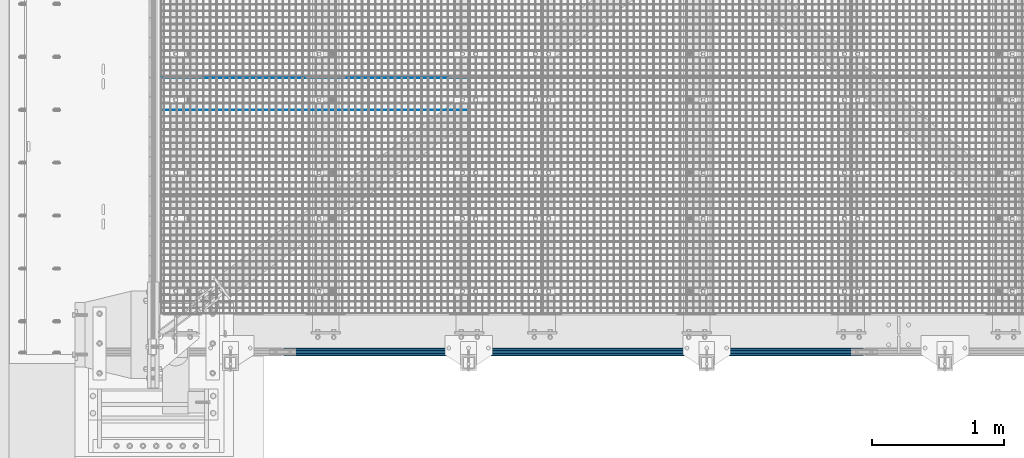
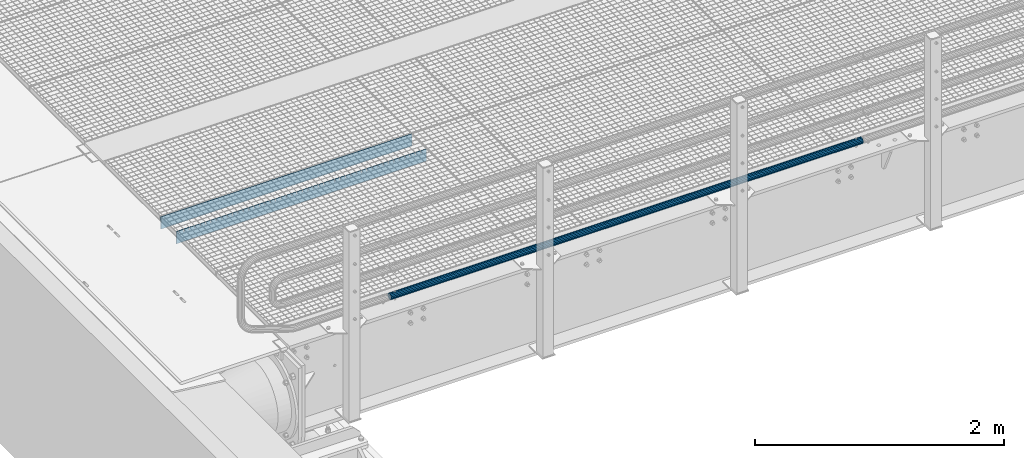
# One storey, part 159 of 1530: 3 beams.
"""IFC2X3 building model written with IfcOpenShell, lengths in millimetres."""

from ifc_helpers import new_model, si_unit, frame, origin_with_axes, place, context, subcontext, project, spatial, faceted_brep, material, type_object, element, save


model = new_model("IFC2X3")

# Units and contexts
model_context = context("Model", 3, precision=1e-05, world=origin_with_axes())
body_context = subcontext(model_context, "Body", "Model", "MODEL_VIEW")
ifc_project = project(units=[si_unit("LENGTHUNIT", "METRE", prefix="MILLI"), si_unit("AREAUNIT", "SQUARE_METRE"), si_unit("VOLUMEUNIT", "CUBIC_METRE"), si_unit("MASSUNIT", "GRAM", prefix="KILO"), si_unit("TIMEUNIT", "SECOND"), si_unit("PLANEANGLEUNIT", "RADIAN"), si_unit("SOLIDANGLEUNIT", "STERADIAN"), si_unit("THERMODYNAMICTEMPERATUREUNIT", "DEGREE_CELSIUS"), si_unit("LUMINOUSINTENSITYUNIT", "LUMEN")], contexts=[model_context])

# Site, building, storey
site_placement = place(None, origin_with_axes())
site = spatial("IfcSite", under=ifc_project, at=site_placement, Name="Brattvåg", CompositionType="ELEMENT")
building_placement = place(site_placement, origin_with_axes())
building = spatial("IfcBuilding", under=site, at=building_placement, Name="Undefined", CompositionType="ELEMENT")
storey_placement = place(building_placement, origin_with_axes())
storey = spatial("IfcBuildingStorey", under=building, at=storey_placement, Name="Undefined", CompositionType="ELEMENT", Elevation=0.0)

# Beams
ifc_material_1 = material(Name="STEEL/S355J2")
beam_type_1 = type_object("IfcBeamType", Name="120*5", PredefinedType="NOTDEFINED")
beam_1_placement = place(storey_placement, frame((2347.01317977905, 1699.9952545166, -59.9998626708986), z_axis=(0.0, 0.0, 1.0), x_axis=(-1.0, 1.99999855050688e-09, 0.0)))
element("IfcBeam", 1, at=beam_1_placement, inside=storey, type_object=beam_type_1, material=ifc_material_1, Name="GRATING", context=body_context, shape_type="Brep", body=[
    faceted_brep([(99.4490367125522, -2.50000000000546, 60.0000722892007), (99.4490367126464, -2.50000000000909, 35.0001373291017), (99.4490367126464, 2.50022888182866, 35.0001373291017), (99.4490367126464, 2.5, 60.0), (104.449036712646, -2.50000000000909, 35.0001373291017), (104.449036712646, 2.50022888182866, 35.0001373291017), (104.449036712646, -2.50000000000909, 60.0001373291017), (104.449036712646, 2.5, 60.0), (54.5084370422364, -2.50000000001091, 60.0001373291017), (54.5084370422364, 2.5, 60.0), (54.5084370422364, 2.49999999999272, 35.0001373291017), (54.5084370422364, -2.50000000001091, 35.0001373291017), (49.5084370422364, 2.49999999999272, 35.0001373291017), (49.5084370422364, -2.50000000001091, 35.0001373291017), (49.5084370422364, -2.5, 60.0), (49.5084370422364, 2.5, 60.0), (0.0, 2.5, 60.0), (0.0, -2.5, 60.0), (0.0, -2.5, -60.0), (0.0, 2.5, -60.0), (2319.99865722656, 2.5, -60.0), (2319.99865722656, -2.5, -60.0), (2319.99865722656, -2.5, 60.0), (2319.99865722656, 2.5, 60.0), (2302.24871932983, 2.5, 60.0), (2302.24871932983, -2.50000000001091, 60.0001373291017), (2302.24871932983, 2.49999999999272, 35.0001373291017), (2302.24871932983, -2.50000000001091, 35.0001373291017), (2297.24871932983, 2.49999999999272, 35.0001373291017), (2297.24871932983, -2.50000000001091, 35.0001373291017), (2297.24871932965, -2.50000000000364, 60.0000461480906), (2297.24871932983, 2.5, 60.0), (2252.29859649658, 2.5, 60.0), (2252.29859649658, -2.50000000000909, 60.0001373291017), (2252.29859649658, 2.50022888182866, 35.0001373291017), (2252.29859649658, -2.50000000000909, 35.0001373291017), (2247.29859649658, 2.50022888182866, 35.0001373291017), (2247.29859649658, -2.50000000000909, 35.0001373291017), (2247.29859649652, -2.50000000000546, 60.0000848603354), (2247.29859649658, 2.5, 60.0), (2202.34847366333, 2.5, 60.0), (2202.34847366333, -2.50000000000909, 60.0001373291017), (2202.34847366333, 2.50022888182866, 35.0001373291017), (2202.34847366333, -2.50000000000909, 35.0001373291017), (2197.34847366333, 2.50022888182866, 35.0001373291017), (2197.34847366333, -2.50000000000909, 35.0001373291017), (2197.34847366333, -2.5, 60.0), (2197.34847366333, 2.5, 60.0), (2152.39882766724, 2.5, 60.0), (2152.39882766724, -2.50000000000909, 60.0001373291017), (2152.39882766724, 2.50022888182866, 35.0001373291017), (2152.39882766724, -2.50000000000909, 35.0001373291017), (2147.39882766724, 2.50022888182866, 35.0001373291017), (2147.39882766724, -2.50000000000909, 35.0001373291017), (2147.39882766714, -2.50000000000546, 60.0000722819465), (2147.39882766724, 2.5, 60.0), (2102.44870483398, 2.5, 60.0), (2102.44870483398, -2.50000000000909, 60.0001373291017), (2102.44870483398, 2.50022888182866, 35.0001373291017), (2102.44870483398, -2.50000000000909, 35.0001373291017), (2097.44870483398, 2.50022888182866, 35.0001373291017), (2097.44870483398, -2.50000000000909, 35.0001373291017), (2097.44870483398, -2.5, 60.0), (2097.44870483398, 2.5, 60.0), (2052.49858200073, 2.5, 60.0), (2052.49858200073, -2.50000000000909, 60.0001373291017), (2052.49858200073, 2.50022888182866, 35.0001373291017), (2052.49858200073, -2.50000000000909, 35.0001373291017), (2047.49858200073, 2.50022888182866, 35.0001373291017), (2047.49858200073, -2.50000000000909, 35.0001373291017), (2047.49858200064, -2.50000000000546, 60.0000722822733), (2047.49858200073, 2.5, 60.0), (2002.54845916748, 2.5, 60.0), (2002.54845916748, -2.50000000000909, 60.0001373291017), (2002.54845916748, 2.50022888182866, 35.0001373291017), (2002.54845916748, -2.50000000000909, 35.0001373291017), (1997.54845916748, 2.50022888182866, 35.0001373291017), (1997.54845916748, -2.50000000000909, 35.0001373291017), (1997.54845916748, -2.5, 60.0), (1997.54845916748, 2.5, 60.0), (1952.59881317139, 2.5, 60.0), (1952.59881317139, -2.50000000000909, 60.0001373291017), (1952.59881317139, 2.50022888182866, 35.0001373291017), (1952.59881317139, -2.50000000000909, 35.0001373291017), (1947.59881317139, 2.50022888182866, 35.0001373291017), (1947.59881317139, -2.50000000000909, 35.0001373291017), (1947.59881317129, -2.50000000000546, 60.0000722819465), (1947.59881317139, 2.5, 60.0), (1902.64869033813, 2.5, 60.0), (1902.64869033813, -2.50000000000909, 60.0001373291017), (1902.64869033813, 2.50022888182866, 35.0001373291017), (1902.64869033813, -2.50000000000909, 35.0001373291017), (1897.64869033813, 2.50022888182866, 35.0001373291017), (1897.64869033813, -2.50000000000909, 35.0001373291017), (1897.64869033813, -2.5, 60.0), (1897.64869033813, 2.5, 60.0), (1852.69856750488, 2.5, 60.0), (1852.69856750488, -2.50000000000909, 60.0001373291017), (1852.69856750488, 2.50022888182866, 35.0001373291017), (1852.69856750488, -2.50000000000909, 35.0001373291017), (1847.69856750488, 2.50022888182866, 35.0001373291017), (1847.69856750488, -2.50000000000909, 35.0001373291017), (1847.69856750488, -2.5, 60.0), (1847.69856750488, 2.5, 60.0), (1802.74892150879, 2.5, 60.0), (1802.74892150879, -2.50000000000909, 60.0001373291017), (1802.74892150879, 2.50022888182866, 35.0001373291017), (1802.74892150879, -2.50000000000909, 35.0001373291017), (1797.74892150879, 2.50022888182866, 35.0001373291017), (1797.74892150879, -2.50000000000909, 35.0001373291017), (1797.74892150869, -2.50000000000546, 60.0000722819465), (1797.74892150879, 2.5, 60.0), (1752.79879867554, 2.5, 60.0), (1752.79879867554, -2.50000000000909, 60.0001373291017), (1752.79879867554, 2.50022888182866, 35.0001373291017), (1752.79879867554, -2.50000000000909, 35.0001373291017), (1747.79879867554, 2.50022888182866, 35.0001373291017), (1747.79879867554, -2.50000000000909, 35.0001373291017), (1747.79879867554, -2.5, 60.0), (1747.79879867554, 2.5, 60.0), (1702.84867584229, 2.5, 60.0), (1702.84867584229, -2.50000000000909, 60.0001373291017), (1702.84867584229, 2.50022888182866, 35.0001373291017), (1702.84867584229, -2.50000000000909, 35.0001373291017), (1697.84867584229, 2.50022888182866, 35.0001373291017), (1697.84867584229, -2.50000000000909, 35.0001373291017), (1697.84867584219, -2.50000000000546, 60.0000722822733), (1697.84867584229, 2.5, 60.0), (1652.89855300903, 2.5, 60.0), (1652.89855300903, -2.50000000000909, 60.0001373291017), (1652.89855300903, 2.50022888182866, 35.0001373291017), (1652.89855300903, -2.50000000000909, 35.0001373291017), (1647.89855300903, 2.50022888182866, 35.0001373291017), (1647.89855300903, -2.50000000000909, 35.0001373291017), (1647.89855300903, -2.5, 60.0), (1647.89855300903, 2.5, 60.0), (1602.94890701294, 2.5, 60.0), (1602.94890701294, -2.50000000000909, 60.0001373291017), (1602.94890701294, 2.50022888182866, 35.0001373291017), (1602.94890701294, -2.50000000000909, 35.0001373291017), (1597.94890701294, 2.50022888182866, 35.0001373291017), (1597.94890701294, -2.50000000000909, 35.0001373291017), (1597.94890701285, -2.50000000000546, 60.0000722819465), (1597.94890701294, 2.5, 60.0), (1552.99878417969, 2.5, 60.0), (1552.99878417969, -2.50000000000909, 60.0001373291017), (1552.99878417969, 2.50022888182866, 35.0001373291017), (1552.99878417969, -2.50000000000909, 35.0001373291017), (1547.99878417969, 2.50022888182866, 35.0001373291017), (1547.99878417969, -2.50000000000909, 35.0001373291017), (1547.99878417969, -2.5, 60.0), (1547.99878417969, 2.5, 60.0), (1503.04866134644, 2.5, 60.0), (1503.04866134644, -2.50000000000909, 60.0001373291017), (1503.04866134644, 2.50022888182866, 35.0001373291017), (1503.04866134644, -2.50000000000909, 35.0001373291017), (1498.04866134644, 2.50022888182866, 35.0001373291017), (1498.04866134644, -2.50000000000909, 35.0001373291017), (1498.04866134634, -2.50000000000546, 60.0000722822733), (1498.04866134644, 2.5, 60.0), (1453.09853851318, 2.5, 60.0), (1453.09853851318, -2.50000000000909, 60.0001373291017), (1453.09853851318, 2.50022888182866, 35.0001373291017), (1453.09853851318, -2.50000000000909, 35.0001373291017), (1448.09853851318, 2.50022888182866, 35.0001373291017), (1448.09853851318, -2.50000000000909, 35.0001373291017), (1448.09853851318, -2.5, 60.0), (1448.09853851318, 2.5, 60.0), (1403.14889251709, 2.5, 60.0), (1403.14889251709, -2.50000000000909, 60.0001373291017), (1403.14889251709, 2.50022888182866, 35.0001373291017), (1403.14889251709, -2.50000000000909, 35.0001373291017), (1398.14889251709, 2.50022888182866, 35.0001373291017), (1398.14889251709, -2.50000000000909, 35.0001373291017), (1398.148892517, -2.50000000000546, 60.0000722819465), (1398.14889251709, 2.5, 60.0), (1353.19876968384, 2.5, 60.0), (1353.19876968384, -2.50000000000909, 60.0001373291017), (1353.19876968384, 2.50022888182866, 35.0001373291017), (1353.19876968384, -2.50000000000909, 35.0001373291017), (1348.19876968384, 2.50022888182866, 35.0001373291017), (1348.19876968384, -2.50000000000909, 35.0001373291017), (1348.19876968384, -2.5, 60.0), (1348.19876968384, 2.5, 60.0), (1303.24864685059, 2.5, 60.0), (1303.24864685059, -2.50000000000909, 60.0001373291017), (1303.24864685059, 2.50022888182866, 35.0001373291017), (1303.24864685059, -2.50000000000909, 35.0001373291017), (1298.24864685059, 2.50022888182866, 35.0001373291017), (1298.24864685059, -2.50000000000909, 35.0001373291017), (1298.24864685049, -2.50000000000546, 60.0000722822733), (1298.24864685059, 2.5, 60.0), (1253.29852401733, 2.5, 60.0), (1253.29852401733, -2.50000000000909, 60.0001373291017), (1253.29852401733, 2.50022888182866, 35.0001373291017), (1253.29852401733, -2.50000000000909, 35.0001373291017), (1248.29852401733, 2.50022888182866, 35.0001373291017), (1248.29852401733, -2.50000000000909, 35.0001373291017), (1248.29852401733, -2.5, 60.0), (1248.29852401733, 2.5, 60.0), (1203.34887802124, 2.5, 60.0), (1203.34887802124, -2.50000000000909, 60.0001373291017), (1203.34887802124, 2.50022888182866, 35.0001373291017), (1203.34887802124, -2.50000000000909, 35.0001373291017), (1198.34887802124, 2.50022888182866, 35.0001373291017), (1198.34887802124, -2.50000000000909, 35.0001373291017), (1198.34887802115, -2.50000000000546, 60.0000722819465), (1198.34887802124, 2.5, 60.0), (1153.39875518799, 2.5, 60.0), (1153.39875518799, -2.50000000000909, 60.0001373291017), (1153.39875518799, 2.50022888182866, 35.0001373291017), (1153.39875518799, -2.50000000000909, 35.0001373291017), (1148.39875518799, 2.50022888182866, 35.0001373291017), (1148.39875518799, -2.50000000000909, 35.0001373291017), (1148.39875518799, -2.5, 60.0), (1148.39875518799, 2.5, 60.0), (1103.44863235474, 2.5, 60.0), (1103.44863235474, -2.50000000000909, 60.0001373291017), (1103.44863235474, 2.50022888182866, 35.0001373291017), (1103.44863235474, -2.50000000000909, 35.0001373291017), (1098.44863235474, 2.50022888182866, 35.0001373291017), (1098.44863235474, -2.50000000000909, 35.0001373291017), (1098.44863235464, -2.50000000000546, 60.0000722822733), (1098.44863235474, 2.5, 60.0), (1053.49850952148, 2.5, 60.0), (1053.49850952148, -2.50000000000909, 60.0001373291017), (1053.49850952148, 2.50022888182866, 35.0001373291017), (1053.49850952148, -2.50000000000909, 35.0001373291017), (1048.49850952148, 2.50022888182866, 35.0001373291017), (1048.49850952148, -2.50000000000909, 35.0001373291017), (1048.49850952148, -2.5, 60.0), (1048.49850952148, 2.5, 60.0), (1003.54886352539, 2.5, 60.0), (1003.54886352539, -2.50000000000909, 60.0001373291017), (1003.54886352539, 2.50022888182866, 35.0001373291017), (1003.54886352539, -2.50000000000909, 35.0001373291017), (998.548863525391, 2.50022888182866, 35.0001373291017), (998.548863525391, -2.50000000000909, 35.0001373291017), (998.548863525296, -2.50000000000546, 60.0000722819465), (998.548863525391, 2.5, 60.0), (953.598740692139, 2.5, 60.0), (953.598740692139, -2.50000000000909, 60.0001373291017), (953.598740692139, 2.50022888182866, 35.0001373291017), (953.598740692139, -2.50000000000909, 35.0001373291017), (948.598740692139, 2.50022888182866, 35.0001373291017), (948.598740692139, -2.50000000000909, 35.0001373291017), (948.598740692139, -2.5, 60.0), (948.598740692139, 2.5, 60.0), (903.648617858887, 2.5, 60.0), (903.648617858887, -2.50000000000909, 60.0001373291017), (903.648617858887, 2.50022888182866, 35.0001373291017), (903.648617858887, -2.50000000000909, 35.0001373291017), (898.648617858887, 2.50022888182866, 35.0001373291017), (898.648617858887, -2.50000000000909, 35.0001373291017), (898.648617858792, -2.50000000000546, 60.0000722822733), (898.648617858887, 2.5, 60.0), (853.698495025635, 2.5, 60.0), (853.698495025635, -2.50000000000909, 60.0001373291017), (853.698495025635, 2.50022888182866, 35.0001373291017), (853.698495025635, -2.50000000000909, 35.0001373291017), (848.698495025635, 2.50022888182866, 35.0001373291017), (848.698495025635, -2.50000000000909, 35.0001373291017), (848.698495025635, -2.5, 60.0), (848.698495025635, 2.5, 60.0), (803.748849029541, 2.5, 60.0), (803.748849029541, -2.50000000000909, 60.0001373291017), (803.748849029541, 2.50022888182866, 35.0001373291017), (803.748849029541, -2.50000000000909, 35.0001373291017), (798.748849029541, 2.50022888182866, 35.0001373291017), (798.748849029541, -2.50000000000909, 35.0001373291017), (798.748849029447, -2.50000000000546, 60.0000722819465), (798.748849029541, 2.5, 60.0), (753.798726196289, 2.5, 60.0), (753.798726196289, -2.50000000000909, 60.0001373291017), (753.798726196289, 2.50022888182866, 35.0001373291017), (753.798726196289, -2.50000000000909, 35.0001373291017), (748.798726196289, 2.50022888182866, 35.0001373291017), (748.798726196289, -2.50000000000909, 35.0001373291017), (748.798726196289, -2.5, 60.0), (748.798726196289, 2.5, 60.0), (703.848603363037, 2.5, 60.0), (703.848603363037, -2.50000000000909, 60.0001373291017), (703.848603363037, 2.50022888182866, 35.0001373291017), (703.848603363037, -2.50000000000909, 35.0001373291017), (698.848603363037, 2.50022888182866, 35.0001373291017), (698.848603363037, -2.50000000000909, 35.0001373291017), (698.848603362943, -2.50000000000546, 60.0000722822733), (698.848603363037, 2.5, 60.0), (653.898480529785, 2.5, 60.0), (653.898480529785, -2.50000000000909, 60.0001373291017), (653.898480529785, 2.50022888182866, 35.0001373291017), (653.898480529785, -2.50000000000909, 35.0001373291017), (648.898480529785, 2.50022888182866, 35.0001373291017), (648.898480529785, -2.50000000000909, 35.0001373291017), (648.898480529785, -2.5, 60.0), (648.898480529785, 2.5, 60.0), (603.948834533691, 2.5, 60.0), (603.948834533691, -2.50000000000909, 60.0001373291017), (603.948834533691, 2.50022888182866, 35.0001373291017), (603.948834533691, -2.50000000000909, 35.0001373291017), (598.948834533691, 2.50022888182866, 35.0001373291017), (598.948834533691, -2.50000000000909, 35.0001373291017), (598.948834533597, -2.50000000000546, 60.0000722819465), (598.948834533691, 2.5, 60.0), (553.998711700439, 2.5, 60.0), (553.998711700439, -2.50000000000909, 60.0001373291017), (553.998711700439, 2.50022888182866, 35.0001373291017), (553.998711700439, -2.50000000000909, 35.0001373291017), (548.998711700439, 2.50022888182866, 35.0001373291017), (548.998711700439, -2.50000000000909, 35.0001373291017), (548.998711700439, -2.5, 60.0), (548.998711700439, 2.5, 60.0), (504.048588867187, 2.5, 60.0), (504.048588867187, -2.50000000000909, 60.0001373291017), (504.048588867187, 2.50022888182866, 35.0001373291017), (504.048588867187, -2.50000000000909, 35.0001373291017), (499.048588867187, 2.50022888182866, 35.0001373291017), (499.048588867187, -2.50000000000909, 35.0001373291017), (499.048588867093, -2.50000000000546, 60.0000722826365), (499.048588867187, 2.5, 60.0), (454.098942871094, 2.5, 60.0), (454.098942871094, -2.50000000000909, 60.0001373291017), (454.098942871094, 2.50022888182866, 35.0001373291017), (454.098942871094, -2.50000000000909, 35.0001373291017), (449.098942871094, 2.50022888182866, 35.0001373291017), (449.098942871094, -2.50000000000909, 35.0001373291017), (449.098942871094, -2.5, 60.0), (449.098942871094, 2.5, 60.0), (404.148820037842, 2.5, 60.0), (404.148820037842, -2.50000000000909, 60.0001373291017), (404.148820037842, 2.50022888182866, 35.0001373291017), (404.148820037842, -2.50000000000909, 35.0001373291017), (399.148820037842, 2.50022888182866, 35.0001373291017), (399.148820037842, -2.50000000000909, 35.0001373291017), (399.148820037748, -2.50000000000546, 60.0000722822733), (399.148820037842, 2.5, 60.0), (354.19869720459, 2.5, 60.0), (354.19869720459, -2.50000000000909, 60.0001373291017), (354.19869720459, 2.50022888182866, 35.0001373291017), (354.19869720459, -2.50000000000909, 35.0001373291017), (349.19869720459, 2.50022888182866, 35.0001373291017), (349.19869720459, -2.50000000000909, 35.0001373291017), (349.19869720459, -2.5, 60.0), (349.19869720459, 2.5, 60.0), (304.248574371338, 2.5, 60.0), (304.248574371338, -2.50000000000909, 60.0001373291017), (304.248574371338, 2.50022888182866, 35.0001373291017), (304.248574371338, -2.50000000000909, 35.0001373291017), (299.248574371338, 2.50022888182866, 35.0001373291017), (299.248574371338, -2.50000000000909, 35.0001373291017), (299.248574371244, -2.50000000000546, 60.0000722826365), (299.248574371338, 2.5, 60.0), (254.298928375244, 2.5, 60.0), (254.298928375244, -2.50000000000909, 60.0001373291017), (254.298928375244, 2.50022888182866, 35.0001373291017), (254.298928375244, -2.50000000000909, 35.0001373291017), (249.298928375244, 2.50022888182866, 35.0001373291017), (249.298928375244, -2.50000000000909, 35.0001373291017), (249.298928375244, -2.5, 60.0), (249.298928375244, 2.5, 60.0), (204.348328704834, 2.5, 60.0), (204.348328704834, -2.50000000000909, 60.0001373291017), (204.348328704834, 2.50022888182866, 35.0001373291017), (204.348328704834, -2.50000000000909, 35.0001373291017), (199.348328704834, 2.50022888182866, 35.0001373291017), (199.348328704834, -2.50000000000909, 35.0001373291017), (199.34832870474, -2.50000000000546, 60.0000722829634), (199.348328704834, 2.5, 60.0), (154.39868270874, 2.5, 60.0), (154.39868270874, -2.50000000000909, 60.0001373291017), (154.39868270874, 2.50022888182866, 35.0001373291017), (154.39868270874, -2.50000000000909, 35.0001373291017), (149.39868270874, 2.50022888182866, 35.0001373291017), (149.39868270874, -2.50000000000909, 35.0001373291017), (149.39868270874, -2.5, 60.0), (149.39868270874, 2.5, 60.0)], [[[0, 1, 2, 3]], [[4, 5, 2, 1]], [[6, 7, 5, 4]], [[8, 9, 10, 11]], [[11, 10, 12, 13]], [[14, 13, 12, 15]], [[16, 17, 14, 15]], [[18, 17, 16, 19]], [[18, 19, 20, 21]], [[22, 21, 20, 23]], [[22, 23, 24, 25]], [[25, 24, 26, 27]], [[27, 26, 28, 29]], [[30, 29, 28, 31]], [[32, 33, 30, 31]], [[33, 32, 34, 35]], [[35, 34, 36, 37]], [[38, 37, 36, 39]], [[40, 41, 38, 39]], [[41, 40, 42, 43]], [[43, 42, 44, 45]], [[46, 45, 44, 47]], [[46, 47, 48, 49]], [[49, 48, 50, 51]], [[51, 50, 52, 53]], [[54, 53, 52, 55]], [[56, 57, 54, 55]], [[57, 56, 58, 59]], [[59, 58, 60, 61]], [[62, 61, 60, 63]], [[62, 63, 64, 65]], [[65, 64, 66, 67]], [[67, 66, 68, 69]], [[70, 69, 68, 71]], [[72, 73, 70, 71]], [[73, 72, 74, 75]], [[75, 74, 76, 77]], [[78, 77, 76, 79]], [[78, 79, 80, 81]], [[81, 80, 82, 83]], [[83, 82, 84, 85]], [[86, 85, 84, 87]], [[88, 89, 86, 87]], [[89, 88, 90, 91]], [[91, 90, 92, 93]], [[94, 93, 92, 95]], [[94, 95, 96, 97]], [[97, 96, 98, 99]], [[99, 98, 100, 101]], [[102, 101, 100, 103]], [[102, 103, 104, 105]], [[105, 104, 106, 107]], [[107, 106, 108, 109]], [[110, 109, 108, 111]], [[112, 113, 110, 111]], [[113, 112, 114, 115]], [[115, 114, 116, 117]], [[118, 117, 116, 119]], [[118, 119, 120, 121]], [[121, 120, 122, 123]], [[123, 122, 124, 125]], [[126, 125, 124, 127]], [[128, 129, 126, 127]], [[129, 128, 130, 131]], [[131, 130, 132, 133]], [[134, 133, 132, 135]], [[134, 135, 136, 137]], [[137, 136, 138, 139]], [[139, 138, 140, 141]], [[142, 141, 140, 143]], [[144, 145, 142, 143]], [[145, 144, 146, 147]], [[147, 146, 148, 149]], [[150, 149, 148, 151]], [[150, 151, 152, 153]], [[153, 152, 154, 155]], [[155, 154, 156, 157]], [[158, 157, 156, 159]], [[160, 161, 158, 159]], [[161, 160, 162, 163]], [[163, 162, 164, 165]], [[166, 165, 164, 167]], [[166, 167, 168, 169]], [[169, 168, 170, 171]], [[171, 170, 172, 173]], [[174, 173, 172, 175]], [[176, 177, 174, 175]], [[177, 176, 178, 179]], [[179, 178, 180, 181]], [[182, 181, 180, 183]], [[182, 183, 184, 185]], [[185, 184, 186, 187]], [[187, 186, 188, 189]], [[190, 189, 188, 191]], [[192, 193, 190, 191]], [[193, 192, 194, 195]], [[195, 194, 196, 197]], [[198, 197, 196, 199]], [[198, 199, 200, 201]], [[201, 200, 202, 203]], [[203, 202, 204, 205]], [[206, 205, 204, 207]], [[208, 209, 206, 207]], [[209, 208, 210, 211]], [[211, 210, 212, 213]], [[214, 213, 212, 215]], [[214, 215, 216, 217]], [[217, 216, 218, 219]], [[219, 218, 220, 221]], [[222, 221, 220, 223]], [[224, 225, 222, 223]], [[225, 224, 226, 227]], [[227, 226, 228, 229]], [[230, 229, 228, 231]], [[230, 231, 232, 233]], [[233, 232, 234, 235]], [[235, 234, 236, 237]], [[238, 237, 236, 239]], [[240, 241, 238, 239]], [[241, 240, 242, 243]], [[243, 242, 244, 245]], [[246, 245, 244, 247]], [[246, 247, 248, 249]], [[249, 248, 250, 251]], [[251, 250, 252, 253]], [[254, 253, 252, 255]], [[256, 257, 254, 255]], [[257, 256, 258, 259]], [[259, 258, 260, 261]], [[262, 261, 260, 263]], [[262, 263, 264, 265]], [[265, 264, 266, 267]], [[267, 266, 268, 269]], [[270, 269, 268, 271]], [[272, 273, 270, 271]], [[273, 272, 274, 275]], [[275, 274, 276, 277]], [[278, 277, 276, 279]], [[278, 279, 280, 281]], [[281, 280, 282, 283]], [[283, 282, 284, 285]], [[286, 285, 284, 287]], [[288, 289, 286, 287]], [[289, 288, 290, 291]], [[291, 290, 292, 293]], [[294, 293, 292, 295]], [[294, 295, 296, 297]], [[297, 296, 298, 299]], [[299, 298, 300, 301]], [[302, 301, 300, 303]], [[304, 305, 302, 303]], [[305, 304, 306, 307]], [[307, 306, 308, 309]], [[310, 309, 308, 311]], [[310, 311, 312, 313]], [[313, 312, 314, 315]], [[315, 314, 316, 317]], [[318, 317, 316, 319]], [[320, 321, 318, 319]], [[321, 320, 322, 323]], [[323, 322, 324, 325]], [[326, 325, 324, 327]], [[326, 327, 328, 329]], [[329, 328, 330, 331]], [[331, 330, 332, 333]], [[334, 333, 332, 335]], [[336, 337, 334, 335]], [[337, 336, 338, 339]], [[339, 338, 340, 341]], [[342, 341, 340, 343]], [[342, 343, 344, 345]], [[345, 344, 346, 347]], [[347, 346, 348, 349]], [[350, 349, 348, 351]], [[352, 353, 350, 351]], [[353, 352, 354, 355]], [[355, 354, 356, 357]], [[358, 357, 356, 359]], [[358, 359, 360, 361]], [[361, 360, 362, 363]], [[363, 362, 364, 365]], [[366, 365, 364, 367]], [[368, 369, 366, 367]], [[369, 368, 370, 371]], [[371, 370, 372, 373]], [[374, 373, 372, 375]], [[1, 0, 8, 11, 13, 14, 17, 18, 21, 22, 25, 27, 29, 30, 33, 35, 37, 38, 41, 43, 45, 46, 49, 51, 53, 54, 57, 59, 61, 62, 65, 67, 69, 70, 73, 75, 77, 78, 81, 83, 85, 86, 89, 91, 93, 94, 97, 99, 101, 102, 105, 107, 109, 110, 113, 115, 117, 118, 121, 123, 125, 126, 129, 131, 133, 134, 137, 139, 141, 142, 145, 147, 149, 150, 153, 155, 157, 158, 161, 163, 165, 166, 169, 171, 173, 174, 177, 179, 181, 182, 185, 187, 189, 190, 193, 195, 197, 198, 201, 203, 205, 206, 209, 211, 213, 214, 217, 219, 221, 222, 225, 227, 229, 230, 233, 235, 237, 238, 241, 243, 245, 246, 249, 251, 253, 254, 257, 259, 261, 262, 265, 267, 269, 270, 273, 275, 277, 278, 281, 283, 285, 286, 289, 291, 293, 294, 297, 299, 301, 302, 305, 307, 309, 310, 313, 315, 317, 318, 321, 323, 325, 326, 329, 331, 333, 334, 337, 339, 341, 342, 345, 347, 349, 350, 353, 355, 357, 358, 361, 363, 365, 366, 369, 371, 373, 374, 6, 4]], [[9, 8, 0, 3]], [[375, 372, 370, 368, 367, 364, 362, 360, 359, 356, 354, 352, 351, 348, 346, 344, 343, 340, 338, 336, 335, 332, 330, 328, 327, 324, 322, 320, 319, 316, 314, 312, 311, 308, 306, 304, 303, 300, 298, 296, 295, 292, 290, 288, 287, 284, 282, 280, 279, 276, 274, 272, 271, 268, 266, 264, 263, 260, 258, 256, 255, 252, 250, 248, 247, 244, 242, 240, 239, 236, 234, 232, 231, 228, 226, 224, 223, 220, 218, 216, 215, 212, 210, 208, 207, 204, 202, 200, 199, 196, 194, 192, 191, 188, 186, 184, 183, 180, 178, 176, 175, 172, 170, 168, 167, 164, 162, 160, 159, 156, 154, 152, 151, 148, 146, 144, 143, 140, 138, 136, 135, 132, 130, 128, 127, 124, 122, 120, 119, 116, 114, 112, 111, 108, 106, 104, 103, 100, 98, 96, 95, 92, 90, 88, 87, 84, 82, 80, 79, 76, 74, 72, 71, 68, 66, 64, 63, 60, 58, 56, 55, 52, 50, 48, 47, 44, 42, 40, 39, 36, 34, 32, 31, 28, 26, 24, 23, 20, 19, 16, 15, 12, 10, 9, 3, 2, 5, 7]], [[374, 375, 7, 6]]]),
])
beam_2_placement = place(storey_placement, frame((2352.00899291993, 1941.49917602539, -59.9998626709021), z_axis=(0.0, 0.0, 1.0), x_axis=(-1.0, 1.99999855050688e-09, 0.0)))
element("IfcBeam", 2, at=beam_2_placement, inside=storey, type_object=beam_type_1, material=ifc_material_1, Name="GRATING", context=body_context, shape_type="Brep", body=[
    faceted_brep([(0.0, 2.5, -60.0), (0.0, 2.5, 60.0), (2329.99832153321, 2.5, 60.0), (2329.99832153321, 2.5, -60.0), (0.0, -2.5, 60.0), (2329.99832153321, -2.5, 60.0), (0.0, -2.5, -60.0), (2329.99832153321, -2.5, -60.0)], [[[0, 1, 2, 3]], [[1, 4, 5, 2]], [[4, 6, 7, 5]], [[6, 0, 3, 7]], [[5, 7, 3, 2]], [[6, 4, 1, 0]]]),
])
ifc_material_2 = material(Name="STEEL/S355J2H")
beam_type_2 = type_object("IfcBeamType", Name="Ø60.3*3.6", PredefinedType="NOTDEFINED")
beam_3_placement = place(storey_placement, frame((5333.99963378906, -129.849880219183, 149.550057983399), z_axis=(0.0, 0.0, 1.0), x_axis=(-1.0, 1.99999855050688e-09, 0.0)))
element("IfcBeam", 3, at=beam_3_placement, inside=storey, type_object=beam_type_2, material=ifc_material_2, Name="STÅLBJELKE", context=body_context, shape_type="Brep", body=[
    faceted_brep([(0.0, -26.5499999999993, 0.0), (0.0, -24.5290015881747, 10.1602451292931), (4384.00053405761, -24.5290015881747, 10.1602451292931), (4384.00053405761, -26.5499999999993, 0.0), (0.0, -18.7736850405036, 18.7736850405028), (4384.00053405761, -18.7736850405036, 18.7736850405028), (0.0, -10.1602451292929, 24.5290015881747), (4384.00053405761, -10.1602451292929, 24.5290015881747), (0.0, 0.0, 26.55), (4384.00053405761, 0.0, 26.55), (0.0, 10.1602451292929, 24.5290015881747), (4384.00053405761, 10.1602451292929, 24.5290015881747), (0.0, 18.7736850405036, 18.7736850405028), (4384.00053405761, 18.7736850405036, 18.7736850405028), (0.0, 24.5290015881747, 10.1602451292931), (4384.00053405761, 24.5290015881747, 10.1602451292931), (0.0, 26.5499999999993, 0.0), (4384.00053405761, 26.5499999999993, 0.0), (0.0, 24.5290015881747, -10.1602451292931), (4384.00053405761, 24.5290015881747, -10.1602451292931), (0.0, 18.7736850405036, -18.7736850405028), (4384.00053405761, 18.7736850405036, -18.7736850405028), (0.0, 10.1602451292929, -24.5290015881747), (4384.00053405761, 10.1602451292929, -24.5290015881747), (0.0, 0.0, -26.55), (4384.00053405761, 0.0, -26.55), (0.0, -10.1602451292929, -24.5290015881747), (4384.00053405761, -10.1602451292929, -24.5290015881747), (0.0, -18.7736850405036, -18.7736850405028), (4384.00053405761, -18.7736850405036, -18.7736850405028), (0.0, -24.5290015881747, -10.1602451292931), (4384.00053405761, -24.5290015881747, -10.1602451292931), (0.0, -30.1499999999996, 0.0), (0.0, -27.8549679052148, -11.5379054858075), (4384.00053405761, -27.8549679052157, -11.5379054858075), (4384.00053405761, -30.1499999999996, 0.0), (0.0, -21.3192694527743, -21.3192694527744), (4384.00053405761, -21.3192694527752, -21.3192694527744), (0.0, -11.5379054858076, -27.8549679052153), (4384.00053405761, -11.5379054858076, -27.8549679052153), (0.0, 0.0, -30.15), (4384.00053405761, 0.0, -30.15), (0.0, 11.5379054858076, -27.8549679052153), (4384.00053405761, 11.5379054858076, -27.8549679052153), (0.0, 21.3192694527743, -21.3192694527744), (4384.00053405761, 21.3192694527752, -21.3192694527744), (0.0, 27.8549679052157, -11.5379054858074), (4384.00053405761, 27.8549679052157, -11.5379054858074), (0.0, 30.1499999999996, 0.0), (4384.00053405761, 30.1499999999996, 0.0), (0.0, 27.8549679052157, 11.5379054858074), (4384.00053405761, 27.8549679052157, 11.5379054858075), (0.0, 21.3192694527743, 21.3192694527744), (4384.00053405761, 21.3192694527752, 21.3192694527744), (0.0, 11.5379054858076, 27.8549679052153), (4384.00053405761, 11.5379054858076, 27.8549679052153), (0.0, 0.0, 30.15), (4384.00053405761, 0.0, 30.15), (0.0, -11.5379054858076, 27.8549679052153), (4384.00053405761, -11.5379054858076, 27.8549679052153), (0.0, -21.3192694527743, 21.3192694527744), (4384.00053405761, -21.3192694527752, 21.3192694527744), (0.0, -27.8549679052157, 11.5379054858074), (4384.00053405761, -27.8549679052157, 11.5379054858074)], [[[0, 1, 2, 3]], [[1, 4, 5, 2]], [[4, 6, 7, 5]], [[6, 8, 9, 7]], [[8, 10, 11, 9]], [[10, 12, 13, 11]], [[12, 14, 15, 13]], [[14, 16, 17, 15]], [[16, 18, 19, 17]], [[18, 20, 21, 19]], [[20, 22, 23, 21]], [[22, 24, 25, 23]], [[24, 26, 27, 25]], [[26, 28, 29, 27]], [[28, 30, 31, 29]], [[30, 0, 3, 31]], [[32, 33, 34, 35]], [[33, 36, 37, 34]], [[36, 38, 39, 37]], [[38, 40, 41, 39]], [[40, 42, 43, 41]], [[42, 44, 45, 43]], [[44, 46, 47, 45]], [[46, 48, 49, 47]], [[48, 50, 51, 49]], [[50, 52, 53, 51]], [[52, 54, 55, 53]], [[54, 56, 57, 55]], [[56, 58, 59, 57]], [[58, 60, 61, 59]], [[60, 62, 63, 61]], [[62, 32, 35, 63]], [[37, 39, 41, 43, 45, 47, 49, 51, 53, 55, 57, 59, 61, 63, 35, 34], [5, 7, 9, 11, 13, 15, 17, 19, 21, 23, 25, 27, 29, 31, 3, 2]], [[62, 60, 58, 56, 54, 52, 50, 48, 46, 44, 42, 40, 38, 36, 33, 32], [30, 28, 26, 24, 22, 20, 18, 16, 14, 12, 10, 8, 6, 4, 1, 0]]]),
])

save(model, "model.ifc")
